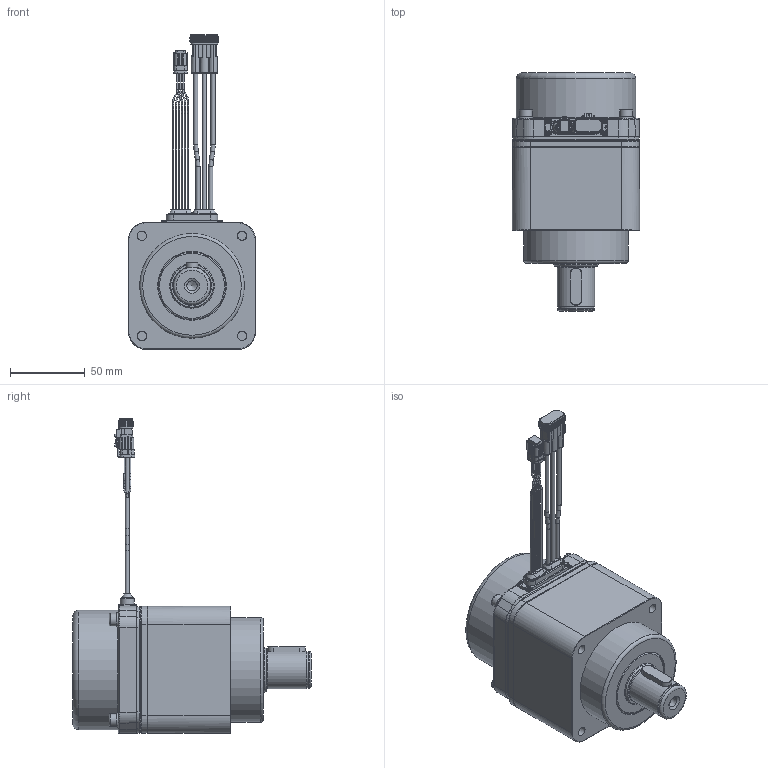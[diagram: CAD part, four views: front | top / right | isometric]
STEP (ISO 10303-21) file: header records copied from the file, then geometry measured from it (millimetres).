
FILE_DESCRIPTION(/* description */ (''),/* implementation_level */ '2;1');
FILE_NAME(/* name */ 'MS94BZD_stp.stp',/* time_stamp */ '2024-03-22T16:32:42+09:00',/* author */ (''),/* organization */ (''),/* preprocessor_version */ 'ST-DEVELOPER v18.101',/* originating_system */ 'SIEMENS PLM Software NX 2011',/* authorisation */ '');
FILE_SCHEMA (('AUTOMOTIVE_DESIGN { 1 0 10303 214 3 1 1 1 }'));
Length unit declared in the file: millimetre
Products named in the file (3): MS94BZF_gear; MS94BZA_motor; MS94BZD_stp
Assembly tree (2 placements, depth 2):
  MS94BZD_stp
    MS94BZA_motor
    MS94BZF_gear
Bounding box: 85 x 159.5 x 210.5 mm (x, y, z)
Volume: 788242.9 mm3; surface area: 102715.1 mm2
Topology: 4 solids, 10 shells, 1642 faces, 3942 edges, 2368 vertices
Faces by surface type: cylinder 649, plane 577, torus 285, cone 64, sphere 56, bspline 11
Full cylindrical faces by diameter (mm): 1 x30, 1.02 x6, 2.8 x7, 3 x4, 3.01 x2, 3.025 x4, 4.41 x2, 4.5 x5, 5 x5, 5.25 x4, 5.3 x4, 6 x4, 6.3 x4, 6.5 x4, 6.8 x1, 8.5 x4, 9.2 x4, 23.795 x1, 24.994 x1, 29.8 x1, 29.983 x1, 30 x1, 46 x1, 70 x1, 79.8 x1
Entity records: 47021 total; most frequent: CARTESIAN_POINT 9910, DIRECTION 7777, ORIENTED_EDGE 7332, EDGE_CURVE 3666, AXIS2_PLACEMENT_3D 2961, VERTEX_POINT 2313, EDGE_LOOP 1944, LINE 1855
